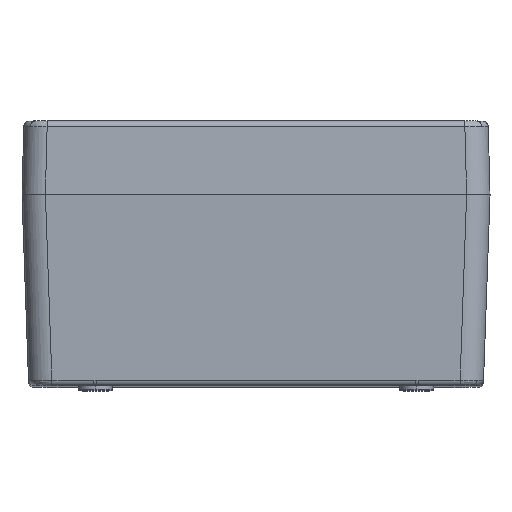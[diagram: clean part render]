
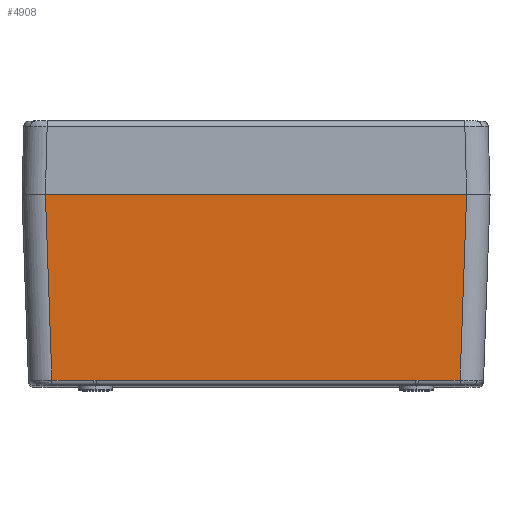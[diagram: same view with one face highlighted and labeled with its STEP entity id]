
A CAD part, top view. The second image highlights one B-rep face of the part: STEP entity #4908.
In plain terms, the highlighted planar face has unit normal (0, -0.035, 0.999).
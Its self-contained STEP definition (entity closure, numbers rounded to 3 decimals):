
#309 = CARTESIAN_POINT ( 'NONE',  ( -72.015, 0.279, 180.01 ) ) ;
#456 = ORIENTED_EDGE ( 'NONE', *, *, #6413, .T. ) ;
#478 = CARTESIAN_POINT ( 'NONE',  ( 54.845, -63.57, 177.78 ) ) ;
#479 = EDGE_CURVE ( 'NONE', #1296, #9400, #3635, .T. ) ;
#808 = ORIENTED_EDGE ( 'NONE', *, *, #5049, .T. ) ;
#1295 = VECTOR ( 'NONE', #2242, 1000. ) ;
#1296 = VERTEX_POINT ( 'NONE', #5924 ) ;
#1314 = VERTEX_POINT ( 'NONE', #5783 ) ;
#1324 = CARTESIAN_POINT ( 'NONE',  ( 55., -63.57, 177.78 ) ) ;
#1462 = CARTESIAN_POINT ( 'NONE',  ( -55.155, -63.57, 177.78 ) ) ;
#2157 = CARTESIAN_POINT ( 'NONE',  ( 54.69, -63.57, 177.78 ) ) ;
#2194 = CARTESIAN_POINT ( 'NONE',  ( 55.31, -63.57, 177.78 ) ) ;
#2242 = DIRECTION ( 'NONE',  ( 1., 0., 0. ) ) ;
#2287 = VECTOR ( 'NONE', #10528, 1000. ) ;
#2294 = CARTESIAN_POINT ( 'NONE',  ( -55.465, -63.57, 177.78 ) ) ;
#2331 = CARTESIAN_POINT ( 'NONE',  ( -54.845, -63.57, 177.78 ) ) ;
#2343 = CARTESIAN_POINT ( 'NONE',  ( -80., -63.57, 177.78 ) ) ;
#2649 = PLANE ( 'NONE',  #3211 ) ;
#2994 = EDGE_CURVE ( 'NONE', #6995, #8214, #3203, .T. ) ;
#3064 = ORIENTED_EDGE ( 'NONE', *, *, #8708, .T. ) ;
#3190 = CARTESIAN_POINT ( 'NONE',  ( -54.535, -63.57, 177.78 ) ) ;
#3203 = B_SPLINE_CURVE_WITH_KNOTS ( 'NONE', 3,
 ( #6443, #2157, #478, #1324, #7293, #2194, #8153 ),
 .UNSPECIFIED., .F., .F.,
 ( 4, 3, 4 ),
 ( 0., 0., 0.001 ),
 .UNSPECIFIED. ) ;
#3211 = AXIS2_PLACEMENT_3D ( 'NONE', #7725, #3506, #9458 ) ;
#3506 = DIRECTION ( 'NONE',  ( 0., -0.035, 0.999 ) ) ;
#3635 = LINE ( 'NONE', #2343, #7896 ) ;
#3747 = CARTESIAN_POINT ( 'NONE',  ( -54.535, -63.57, 177.78 ) ) ;
#3785 = VERTEX_POINT ( 'NONE', #3747 ) ;
#4101 = LINE ( 'NONE', #7361, #1295 ) ;
#4478 = CARTESIAN_POINT ( 'NONE',  ( -72.005, 0., 180. ) ) ;
#4566 = CARTESIAN_POINT ( 'NONE',  ( -80., 0., 180. ) ) ;
#4803 = LINE ( 'NONE', #4905, #6805 ) ;
#4905 = CARTESIAN_POINT ( 'NONE',  ( 71.82, -5.295, 179.815 ) ) ;
#4908 = ADVANCED_FACE ( 'NONE', ( #5034 ), #2649, .T. ) ;
#4958 = DIRECTION ( 'NONE',  ( 1., 0., 0. ) ) ;
#5034 = FACE_OUTER_BOUND ( 'NONE', #8866, .T. ) ;
#5049 = EDGE_CURVE ( 'NONE', #5454, #1296, #8498, .T. ) ;
#5454 = VERTEX_POINT ( 'NONE', #4478 ) ;
#5602 = CARTESIAN_POINT ( 'NONE',  ( -55.31, -63.57, 177.78 ) ) ;
#5736 = ORIENTED_EDGE ( 'NONE', *, *, #10610, .T. ) ;
#5783 = CARTESIAN_POINT ( 'NONE',  ( 69.785, -63.57, 177.78 ) ) ;
#5924 = CARTESIAN_POINT ( 'NONE',  ( -69.785, -63.57, 177.78 ) ) ;
#6413 = EDGE_CURVE ( 'NONE', #3785, #6995, #7237, .T. ) ;
#6443 = CARTESIAN_POINT ( 'NONE',  ( 54.535, -63.57, 177.78 ) ) ;
#6631 = DIRECTION ( 'NONE',  ( 0.035, 0.999, 0.035 ) ) ;
#6805 = VECTOR ( 'NONE', #6631, 1000. ) ;
#6819 = LINE ( 'NONE', #4566, #2287 ) ;
#6995 = VERTEX_POINT ( 'NONE', #7765 ) ;
#7237 = LINE ( 'NONE', #10910, #9244 ) ;
#7293 = CARTESIAN_POINT ( 'NONE',  ( 55.155, -63.57, 177.78 ) ) ;
#7361 = CARTESIAN_POINT ( 'NONE',  ( -80., -63.57, 177.78 ) ) ;
#7431 = CARTESIAN_POINT ( 'NONE',  ( -55., -63.57, 177.78 ) ) ;
#7725 = CARTESIAN_POINT ( 'NONE',  ( -80., 0., 180. ) ) ;
#7762 = EDGE_CURVE ( 'NONE', #1314, #8709, #4803, .T. ) ;
#7765 = CARTESIAN_POINT ( 'NONE',  ( 54.535, -63.57, 177.78 ) ) ;
#7896 = VECTOR ( 'NONE', #10438, 1000. ) ;
#8070 = ORIENTED_EDGE ( 'NONE', *, *, #8104, .F. ) ;
#8104 = EDGE_CURVE ( 'NONE', #5454, #8709, #6819, .T. ) ;
#8153 = CARTESIAN_POINT ( 'NONE',  ( 55.465, -63.57, 177.78 ) ) ;
#8214 = VERTEX_POINT ( 'NONE', #10683 ) ;
#8225 = VECTOR ( 'NONE', #8776, 1000. ) ;
#8243 = CARTESIAN_POINT ( 'NONE',  ( 72.005, 0., 180. ) ) ;
#8293 = CARTESIAN_POINT ( 'NONE',  ( -54.69, -63.57, 177.78 ) ) ;
#8498 = LINE ( 'NONE', #309, #8225 ) ;
#8708 = EDGE_CURVE ( 'NONE', #9400, #3785, #10497, .T. ) ;
#8709 = VERTEX_POINT ( 'NONE', #8243 ) ;
#8776 = DIRECTION ( 'NONE',  ( 0.035, -0.999, -0.035 ) ) ;
#8866 = EDGE_LOOP ( 'NONE', ( #808, #10271, #3064, #456, #9113, #5736, #10484, #8070 ) ) ;
#9113 = ORIENTED_EDGE ( 'NONE', *, *, #2994, .T. ) ;
#9244 = VECTOR ( 'NONE', #4958, 1000. ) ;
#9400 = VERTEX_POINT ( 'NONE', #9661 ) ;
#9458 = DIRECTION ( 'NONE',  ( 0., -0.999, -0.035 ) ) ;
#9661 = CARTESIAN_POINT ( 'NONE',  ( -55.465, -63.57, 177.78 ) ) ;
#10271 = ORIENTED_EDGE ( 'NONE', *, *, #479, .T. ) ;
#10438 = DIRECTION ( 'NONE',  ( 1., 0., 0. ) ) ;
#10484 = ORIENTED_EDGE ( 'NONE', *, *, #7762, .T. ) ;
#10497 = B_SPLINE_CURVE_WITH_KNOTS ( 'NONE', 3,
 ( #2294, #5602, #1462, #7431, #2331, #8293, #3190 ),
 .UNSPECIFIED., .F., .F.,
 ( 4, 3, 4 ),
 ( 0., 0., 0.001 ),
 .UNSPECIFIED. ) ;
#10528 = DIRECTION ( 'NONE',  ( 1., 0., 0. ) ) ;
#10610 = EDGE_CURVE ( 'NONE', #8214, #1314, #4101, .T. ) ;
#10683 = CARTESIAN_POINT ( 'NONE',  ( 55.465, -63.57, 177.78 ) ) ;
#10910 = CARTESIAN_POINT ( 'NONE',  ( -80., -63.57, 177.78 ) ) ;
